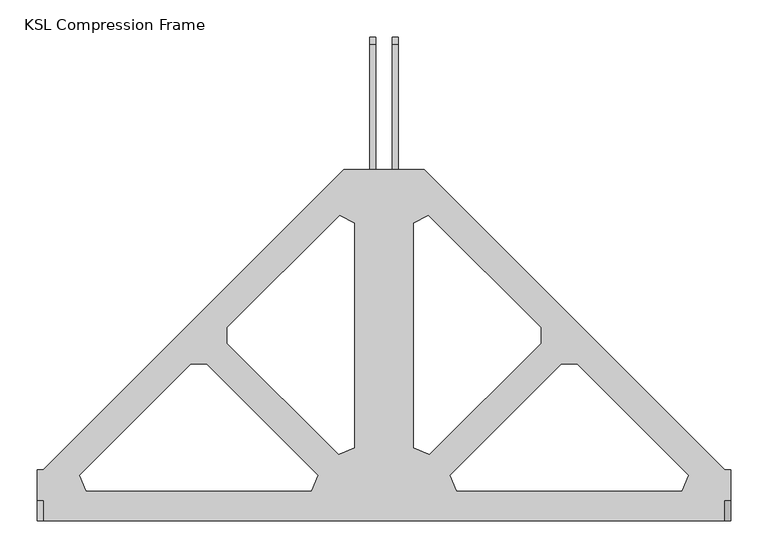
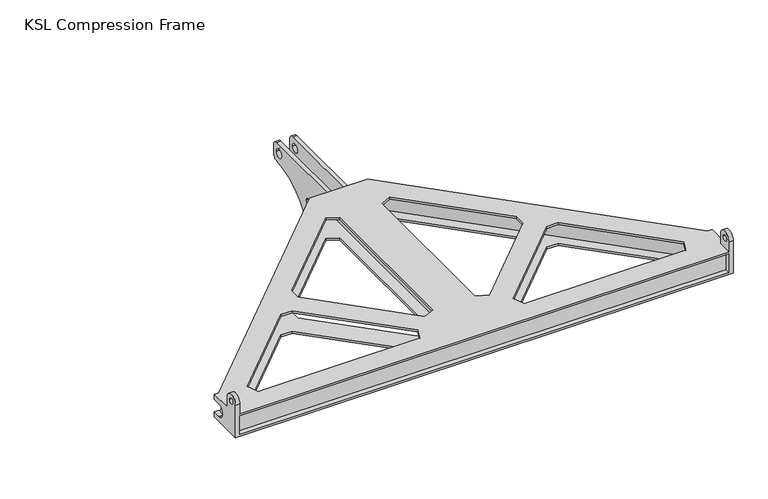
"""IFC4 building model written with IfcOpenShell, lengths in millimetres: proxy geometry, d&b SL-Series KSL Compression Frame : KSL Compression Frame."""

from ifc_helpers import new_model, si_unit, point, frame, frame_2d, origin, place, context, project, spatial, polyline, circle_curve, trimmed, segment, composite_curve, outline, extrude, source, transform, mapped, element, save
from ifc_brep_helpers import plane_surface, cylinder_surface, revolved_surface, advanced_brep


def ksl_compression_frame_dbb09a64(model_context):
    return source(origin(), model_context, "Body", "SolidModel", [
        extrude(outline(composite_curve([segment(polyline([(43.8454278, -50.0), (43.8454278, -13.0), (672.8454278, -13.0)]), True, "CONTINUOUS"), segment(trimmed(circle_curve(frame_2d((672.8454278, -23.0)), 10.0), [point((672.8454278, -13.0))], [point((682.8454278, -23.0))], False, "CARTESIAN"), True, "CONTINUOUS"), segment(polyline([(682.8454278, -23.0), (682.8454278, -40.1113824)]), True, "CONTINUOUS"), segment(trimmed(circle_curve(frame_2d((672.8454278, -40.1113824)), 10.0), [point((682.8454278, -40.1113824))], [point((673.2683315, -50.102436))], False, "CARTESIAN"), True, "CONTINUOUS"), segment(trimmed(circle_curve(frame_2d((678.1105783, -164.5)), 114.5), [point((673.2683315, -50.102436))], [point((584.8896316, -98.016129))], True, "CARTESIAN"), True, "CONTINUOUS"), segment(trimmed(circle_curve(frame_2d((570.8454278, -88.0)), 17.25), [point((584.8896316, -98.016129))], [point((554.5513399, -93.662614))], False, "CARTESIAN"), True, "CONTINUOUS"), segment(trimmed(circle_curve(frame_2d((493.1533272, -115.0)), 65.0), [point((554.5513399, -93.662614))], [point((493.1533272, -50.0))], True, "CARTESIAN"), True, "CONTINUOUS"), segment(polyline([(493.1533272, -50.0), (43.8454278, -50.0)]), True, "CONTINUOUS")], self_intersect=False), holes=[composite_curve([segment(trimmed(circle_curve(frame_2d((665.3454278, -31.0)), 8.25), [point((673.5954278, -31.0))], [point((657.0954278, -31.0))], True, "CARTESIAN"), True, "CONTINUOUS"), segment(trimmed(circle_curve(frame_2d((665.3454278, -31.0)), 8.25), [point((657.0954278, -31.0))], [point((673.5954278, -31.0))], True, "CARTESIAN"), True, "CONTINUOUS")], self_intersect=False), composite_curve([segment(trimmed(circle_curve(frame_2d((570.8454278, -69.25)), 5.25), [point((576.0954278, -69.25))], [point((565.5954278, -69.25))], True, "CARTESIAN"), True, "CONTINUOUS"), segment(trimmed(circle_curve(frame_2d((570.8454278, -69.25)), 5.25), [point((565.5954278, -69.25))], [point((576.0954278, -69.25))], True, "CARTESIAN"), True, "CONTINUOUS")], self_intersect=False), composite_curve([segment(trimmed(circle_curve(frame_2d((570.8454278, -88.0)), 5.25), [point((576.0954278, -88.0))], [point((565.5954278, -88.0))], True, "CARTESIAN"), True, "CONTINUOUS"), segment(trimmed(circle_curve(frame_2d((570.8454278, -88.0)), 5.25), [point((565.5954278, -88.0))], [point((576.0954278, -88.0))], True, "CARTESIAN"), True, "CONTINUOUS")], self_intersect=False)]), frame((11.0, 0.0, 0.0), z_axis=(1.0, 0.0, 0.0), x_axis=(0.0, 1.0, 0.0)), (0.0, 0.0, 1.0), 8.0),
        advanced_brep(
        [(-459.5, 98.9954278, -13.0), (-54.5, 503.9954278, -13.0), (54.5, 503.9954278, -13.0), (459.5, 98.9954278, -13.0), (459.5, 30.5954278, -13.0), (-459.5, 30.5954278, -13.0), (239.2012627, 241.5124193, -13.0), (89.4974747, 91.8086313, -13.0), (98.2842712, 70.5954278, -13.0), (401.3314575, 70.5954278, -13.0), (410.1182541, 91.8086313, -13.0), (260.4144661, 241.5124193, -13.0), (61.2132034, 120.0929025, -13.0), (210.9169914, 269.7966905, -13.0), (210.9169914, 291.0098939, -13.0), (59.8291426, 442.0977427, -13.0), (40.0, 431.9942899, -13.0), (40.0, 128.8796991, -13.0), (-239.2012627, 241.5124193, -13.0), (-260.4144661, 241.5124193, -13.0), (-410.1182541, 91.8086313, -13.0), (-401.3314575, 70.5954278, -13.0), (-98.2842712, 70.5954278, -13.0), (-89.4974747, 91.8086313, -13.0), (-61.2132034, 120.0929025, -13.0), (-40.0, 128.8796991, -13.0), (-40.0, 431.9942899, -13.0), (-59.8291426, 442.0977427, -13.0), (-210.9169914, 291.0098939, -13.0), (-210.9169914, 269.7966905, -13.0), (459.5, 98.9954278, -9.0), (54.5, 503.9954278, -9.0), (-54.5, 503.9954278, -9.0), (-459.5, 98.9954278, -9.0), (-467.5, 98.9954278, -9.0), (-467.5, 57.3954278, -9.0), (-459.5, 57.3954278, -9.0), (-459.5, 30.5954278, -9.0), (459.5, 30.5954278, -9.0), (459.5, 57.3954278, -9.0), (467.5, 57.3954278, -9.0), (467.5, 98.9954278, -9.0), (239.2012627, 241.5124193, -9.0), (260.4144661, 241.5124193, -9.0), (410.1182541, 91.8086313, -9.0), (401.3314575, 70.5954278, -9.0), (98.2842712, 70.5954278, -9.0), (89.4974747, 91.8086313, -9.0), (61.2132034, 120.0929025, -9.0), (40.0, 128.8796991, -9.0), (40.0, 431.9942899, -9.0), (59.8291426, 442.0977427, -9.0), (210.9169914, 291.0098939, -9.0), (210.9169914, 269.7966905, -9.0), (-239.2012627, 241.5124193, -9.0), (-89.4974747, 91.8086313, -9.0), (-98.2842712, 70.5954278, -9.0), (-401.3314575, 70.5954278, -9.0), (-410.1182541, 91.8086313, -9.0), (-260.4144661, 241.5124193, -9.0), (-61.2132034, 120.0929025, -9.0), (-210.9169914, 269.7966905, -9.0), (-210.9169914, 291.0098939, -9.0), (-59.8291426, 442.0977427, -9.0), (-40.0, 431.9942899, -9.0), (-40.0, 128.8796991, -9.0), (-459.5, 83.9954278, -19.0), (-459.5, 98.9954278, -19.0), (-459.5, 30.5954278, -50.0), (-459.5, 98.9954278, -50.0), (-459.5, 98.9954278, -44.0), (-459.5, 83.9954278, -44.0), (-459.5, 57.3954278, 11.0), (-459.5, 30.5954278, 11.0), (-459.5, 49.3550955, 11.0), (-459.5, 38.6357602, 11.0), (-467.5, 98.9954278, -54.0), (-459.5, 98.9954278, -54.0), (-54.5, 503.9954278, -54.0), (54.5, 503.9954278, -54.0), (459.5, 98.9954278, -54.0), (467.5, 98.9954278, -54.0), (467.5, 30.5954278, -54.0), (-467.5, 30.5954278, -54.0), (239.2012627, 241.5124193, -54.0), (89.4974747, 91.8086313, -54.0), (98.2842712, 70.5954278, -54.0), (401.3314575, 70.5954278, -54.0), (410.1182541, 91.8086313, -54.0), (260.4144661, 241.5124193, -54.0), (61.2132034, 120.0929025, -54.0), (210.9169914, 269.7966905, -54.0), (210.9169914, 291.0098939, -54.0), (59.8291426, 442.0977427, -54.0), (40.0, 431.9942899, -54.0), (40.0, 128.8796991, -54.0), (-239.2012627, 241.5124193, -54.0), (-260.4144661, 241.5124193, -54.0), (-410.1182541, 91.8086313, -54.0), (-401.3314575, 70.5954278, -54.0), (-98.2842712, 70.5954278, -54.0), (-89.4974747, 91.8086313, -54.0), (-61.2132034, 120.0929025, -54.0), (-40.0, 128.8796991, -54.0), (-40.0, 431.9942899, -54.0), (-59.8291426, 442.0977427, -54.0), (-210.9169914, 291.0098939, -54.0), (-210.9169914, 269.7966905, -54.0), (-467.5, 98.9954278, -44.0), (-467.5, 83.9954278, -44.0), (-467.5, 83.9954278, -19.0), (-467.5, 98.9954278, -19.0), (-467.5, 57.3954278, 11.0), (-467.5, 30.5954278, 11.0), (-467.5, 49.3550955, 11.0), (-467.5, 38.6357602, 11.0), (459.5, 83.9954278, -19.0), (459.5, 83.9954278, -44.0), (459.5, 98.9954278, -44.0), (459.5, 98.9954278, -50.0), (459.5, 30.5954278, -50.0), (459.5, 98.9954278, -19.0), (459.5, 57.3954278, 11.0), (459.5, 30.5954278, 11.0), (459.5, 49.3550955, 11.0), (459.5, 38.6357602, 11.0), (467.5, 98.9954278, -44.0), (467.5, 83.9954278, -44.0), (467.5, 83.9954278, -19.0), (467.5, 98.9954278, -19.0), (467.5, 30.5954278, 11.0), (467.5, 57.3954278, 11.0), (467.5, 38.6357602, 11.0), (467.5, 49.3550955, 11.0), (54.5, 503.9954278, -50.0), (-54.5, 503.9954278, -50.0), (239.2012627, 241.5124193, -50.0), (260.4144661, 241.5124193, -50.0), (410.1182541, 91.8086313, -50.0), (401.3314575, 70.5954278, -50.0), (98.2842712, 70.5954278, -50.0), (89.4974747, 91.8086313, -50.0), (61.2132034, 120.0929025, -50.0), (40.0, 128.8796991, -50.0), (40.0, 431.9942899, -50.0), (59.8291426, 442.0977427, -50.0), (210.9169914, 291.0098939, -50.0), (210.9169914, 269.7966905, -50.0), (-239.2012627, 241.5124193, -50.0), (-89.4974747, 91.8086313, -50.0), (-98.2842712, 70.5954278, -50.0), (-401.3314575, 70.5954278, -50.0), (-410.1182541, 91.8086313, -50.0), (-260.4144661, 241.5124193, -50.0), (-61.2132034, 120.0929025, -50.0), (-210.9169914, 269.7966905, -50.0), (-210.9169914, 291.0098939, -50.0), (-59.8291426, 442.0977427, -50.0), (-40.0, 431.9942899, -50.0), (-40.0, 128.8796991, -50.0)],
        [
            (0, 1),
            (1, 2),
            (2, 3),
            (3, 4),
            (4, 5),
            (5, 0),
            (6, 7),
            (7, 8),
            (8, 9),
            (9, 10),
            (10, 11),
            (11, 6),
            (12, 13),
            (13, 14),
            (14, 15),
            (15, 16),
            (16, 17),
            (17, 12),
            (18, 19),
            (19, 20),
            (20, 21),
            (21, 22),
            (22, 23),
            (23, 18),
            (24, 25),
            (25, 26),
            (26, 27),
            (27, 28),
            (28, 29),
            (29, 24),
            (30, 31),
            (31, 32),
            (32, 33),
            (33, 34),
            (34, 35),
            (35, 36),
            (36, 37),
            (37, 38),
            (38, 39),
            (39, 40),
            (40, 41),
            (41, 30),
            (42, 43),
            (43, 44),
            (44, 45),
            (45, 46),
            (46, 47),
            (47, 42),
            (48, 49),
            (49, 50),
            (50, 51),
            (51, 52),
            (52, 53),
            (53, 48),
            (54, 55),
            (55, 56),
            (56, 57),
            (57, 58),
            (58, 59),
            (59, 54),
            (60, 61),
            (61, 62),
            (62, 63),
            (63, 64),
            (64, 65),
            (65, 60),
            (66, 67),
            (67, 0),
            (5, 68),
            (68, 69),
            (69, 70),
            (70, 71),
            (71, 66, circle_curve(frame((-459.5, 83.9954278, -31.5), z_axis=(-1.0, 0.0, 0.0), x_axis=(0.0, -1.0, 0.0)), 12.5)),
            (72, 73, circle_curve(frame((-459.5, 43.9954278, 11.0), z_axis=(1.0, 0.0, 0.0), x_axis=(0.0, -1.0, 0.0)), 13.4)),
            (73, 37),
            (36, 72),
            (74, 75, circle_curve(frame((-459.5, 43.9954278, 11.0), z_axis=(-1.0, 0.0, 0.0), x_axis=(0.0, -1.0, 0.0)), 5.3596677)),
            (75, 74, circle_curve(frame((-459.5, 43.9954278, 11.0), z_axis=(-1.0, 0.0, 0.0), x_axis=(0.0, -1.0, 0.0)), 5.3596677)),
            (76, 77),
            (77, 78),
            (78, 79),
            (79, 80),
            (80, 81),
            (81, 82),
            (82, 83),
            (83, 76),
            (84, 85),
            (85, 86),
            (86, 87),
            (87, 88),
            (88, 89),
            (89, 84),
            (90, 91),
            (91, 92),
            (92, 93),
            (93, 94),
            (94, 95),
            (95, 90),
            (96, 97),
            (97, 98),
            (98, 99),
            (99, 100),
            (100, 101),
            (101, 96),
            (102, 103),
            (103, 104),
            (104, 105),
            (105, 106),
            (106, 107),
            (107, 102),
            (76, 108),
            (108, 70),
            (69, 77),
            (108, 109),
            (109, 71),
            (109, 110, circle_curve(frame((-467.5, 83.9954278, -31.5), z_axis=(-1.0, 0.0, 0.0), x_axis=(0.0, -1.0, 0.0)), 12.5)),
            (110, 66),
            (110, 111),
            (111, 67),
            (72, 112),
            (112, 113, circle_curve(frame((-467.5, 43.9954278, 11.0), z_axis=(1.0, 0.0, 0.0), x_axis=(0.0, -1.0, 0.0)), 13.4)),
            (113, 73),
            (35, 112),
            (74, 114),
            (114, 115, circle_curve(frame((-467.5, 43.9954278, 11.0), z_axis=(-1.0, 0.0, 0.0), x_axis=(0.0, -1.0, 0.0)), 5.3596677)),
            (115, 75),
            (115, 114, circle_curve(frame((-467.5, 43.9954278, 11.0), z_axis=(-1.0, 0.0, 0.0), x_axis=(0.0, -1.0, 0.0)), 5.3596677)),
            (116, 117, circle_curve(frame((459.5, 83.9954278, -31.5), z_axis=(1.0, 0.0, 0.0), x_axis=(0.0, -1.0, 0.0)), 12.5)),
            (117, 118),
            (118, 119),
            (119, 120),
            (120, 4),
            (3, 121),
            (121, 116),
            (122, 39),
            (38, 123),
            (123, 122, circle_curve(frame((459.5, 43.9954278, 11.0), z_axis=(-1.0, 0.0, 0.0), x_axis=(0.0, -1.0, 0.0)), 13.4)),
            (124, 125, circle_curve(frame((459.5, 43.9954278, 11.0), z_axis=(1.0, 0.0, 0.0), x_axis=(0.0, -1.0, 0.0)), 5.3596677)),
            (125, 124, circle_curve(frame((459.5, 43.9954278, 11.0), z_axis=(1.0, 0.0, 0.0), x_axis=(0.0, -1.0, 0.0)), 5.3596677)),
            (126, 81),
            (80, 119),
            (118, 126),
            (117, 127),
            (127, 126),
            (116, 128),
            (128, 127, circle_curve(frame((467.5, 83.9954278, -31.5), z_axis=(1.0, 0.0, 0.0), x_axis=(0.0, -1.0, 0.0)), 12.5)),
            (121, 129),
            (129, 128),
            (123, 130),
            (130, 131, circle_curve(frame((467.5, 43.9954278, 11.0), z_axis=(-1.0, 0.0, 0.0), x_axis=(0.0, -1.0, 0.0)), 13.4)),
            (131, 122),
            (131, 40),
            (125, 132),
            (132, 133, circle_curve(frame((467.5, 43.9954278, 11.0), z_axis=(1.0, 0.0, 0.0), x_axis=(0.0, -1.0, 0.0)), 5.3596677)),
            (133, 124),
            (133, 132, circle_curve(frame((467.5, 43.9954278, 11.0), z_axis=(1.0, 0.0, 0.0), x_axis=(0.0, -1.0, 0.0)), 5.3596677)),
            (119, 134),
            (134, 135),
            (135, 69),
            (68, 120),
            (136, 137),
            (137, 138),
            (138, 139),
            (139, 140),
            (140, 141),
            (141, 136),
            (142, 143),
            (143, 144),
            (144, 145),
            (145, 146),
            (146, 147),
            (147, 142),
            (148, 149),
            (149, 150),
            (150, 151),
            (151, 152),
            (152, 153),
            (153, 148),
            (154, 155),
            (155, 156),
            (156, 157),
            (157, 158),
            (158, 159),
            (159, 154),
            (2, 31),
            (30, 3),
            (1, 32),
            (0, 33),
            (111, 34),
            (83, 113),
            (82, 130),
            (129, 41),
            (11, 43),
            (42, 6),
            (10, 44),
            (9, 45),
            (8, 46),
            (7, 47),
            (17, 49),
            (48, 12),
            (16, 50),
            (15, 51),
            (14, 52),
            (13, 53),
            (23, 55),
            (54, 18),
            (22, 56),
            (21, 57),
            (20, 58),
            (19, 59),
            (29, 61),
            (60, 24),
            (28, 62),
            (27, 63),
            (26, 64),
            (25, 65),
            (79, 134),
            (78, 135),
            (89, 137),
            (136, 84),
            (88, 138),
            (87, 139),
            (86, 140),
            (85, 141),
            (95, 143),
            (142, 90),
            (94, 144),
            (93, 145),
            (92, 146),
            (91, 147),
            (101, 149),
            (148, 96),
            (100, 150),
            (99, 151),
            (98, 152),
            (97, 153),
            (107, 155),
            (154, 102),
            (106, 156),
            (105, 157),
            (104, 158),
            (103, 159),
        ],
        [
            plane_surface(frame((52.203691, 506.2917369, -13.0), z_axis=(0.0, 0.0, -1.0), x_axis=(0.7071067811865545, -0.7071067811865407, 0.0))),
            plane_surface(frame((52.203691, 506.2917369, -9.0), z_axis=(0.0, 0.0, 1.0), x_axis=(-0.7071067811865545, 0.7071067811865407, 0.0))),
            plane_surface(frame((-459.5, 96.9954278, -19.0), z_axis=(1.0, 0.0, 0.0), x_axis=(0.0, 1.0, 0.0))),
            plane_surface(frame((-459.5, 32.6068307, -54.0), z_axis=(0.0, 0.0, -1.0), x_axis=(-1.0, 0.0, 0.0))),
            plane_surface(frame((-459.5, 98.9954278, -54.0), z_axis=(0.0, 1.0, 0.0), x_axis=(-1.0, 0.0, 0.0))),
            plane_surface(frame((-459.5, 98.9954278, -44.0), z_axis=(0.0, 0.0, 1.0), x_axis=(-1.0, 0.0, 0.0))),
            revolved_surface(polyline([(-467.5, 71.4954278, -31.5), (-459.5, 71.4954278, -31.5)]), (-467.5, 83.9954278, -31.5), (-1.0, 0.0, 0.0)),
            plane_surface(frame((-459.5, 83.9954278, -19.0), z_axis=(0.0, 0.0, -1.0), x_axis=(-1.0, 0.0, 0.0))),
            cylinder_surface(frame((-606.25, 43.9954278, 11.0), z_axis=(1.0, 0.0, 0.0), x_axis=(0.0, -1.0, 0.0)), 13.4),
            plane_surface(frame((-459.5, 57.3954278, -9.0), z_axis=(0.0, 1.0, 0.0), x_axis=(-1.0, 0.0, 0.0))),
            revolved_surface(polyline([(-467.5, 38.6357601, 11.0), (-459.5, 38.6357601, 11.0)]), (-606.25, 43.9954278, 11.0), (-1.0, 0.0, 0.0)),
            plane_surface(frame((459.5, 71.4954278, -31.5), z_axis=(-1.0, 0.0, 0.0), x_axis=(0.0, 0.0, -1.0))),
            plane_surface(frame((459.5, 98.9954278, -44.0), z_axis=(0.0, 1.0, 0.0), x_axis=(1.0, 0.0, 0.0))),
            plane_surface(frame((459.5, 83.9954278, -44.0), z_axis=(0.0, 0.0, 1.0), x_axis=(1.0, 0.0, 0.0))),
            revolved_surface(polyline([(467.5, 71.4954278, -31.5), (459.5, 71.4954278, -31.5)]), (467.5, 83.9954278, -31.5), (1.0, 0.0, 0.0)),
            plane_surface(frame((459.5, 98.9954278, -19.0), z_axis=(0.0, 0.0, -1.0), x_axis=(1.0, 0.0, 0.0))),
            cylinder_surface(frame((606.25, 43.9954278, 11.0), z_axis=(-1.0, 0.0, 0.0), x_axis=(0.0, -1.0, 0.0)), 13.4),
            plane_surface(frame((459.5, 57.3954278, 11.0), z_axis=(0.0, 1.0, 0.0), x_axis=(1.0, 0.0, 0.0))),
            revolved_surface(polyline([(467.5, 38.6357601, 11.0), (459.5, 38.6357601, 11.0)]), (606.25, 43.9954278, 11.0), (1.0, 0.0, 0.0)),
            plane_surface(frame((52.203691, 506.2917369, -50.0), z_axis=(0.0, 0.0, 1.0), x_axis=(-0.7071067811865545, 0.7071067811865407, 0.0))),
            plane_surface(frame((459.5, 98.9954278, -9.0), z_axis=(0.7071067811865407, 0.7071067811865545, 0.0), x_axis=(0.0, 0.0, -1.0))),
            plane_surface(frame((54.5, 503.9954278, -9.0), z_axis=(0.0, 1.0, 0.0), x_axis=(0.0, 0.0, -1.0))),
            plane_surface(frame((-54.5, 503.9954278, -9.0), z_axis=(-0.7071067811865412, 0.7071067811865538, 0.0), x_axis=(0.0, 0.0, -1.0))),
            plane_surface(frame((-459.5, 98.9954278, -9.0), z_axis=(0.0, 1.0, 0.0), x_axis=(0.0, 0.0, -1.0))),
            plane_surface(frame((-467.5, 98.9954278, -9.0), z_axis=(-1.0, 0.0, 0.0), x_axis=(0.0, 0.0, -1.0))),
            plane_surface(frame((-467.5, 30.5954278, -9.0), z_axis=(0.0, -1.0, 0.0), x_axis=(0.0, 0.0, -1.0))),
            plane_surface(frame((467.5, 30.5954278, -9.0), z_axis=(1.0, 0.0, 0.0), x_axis=(0.0, 0.0, -1.0))),
            plane_surface(frame((467.5, 98.9954278, -9.0), z_axis=(0.0, 1.0, 0.0), x_axis=(0.0, 0.0, -1.0))),
            plane_surface(frame((239.2012627, 241.5124193, -9.0), z_axis=(0.0, -1.0, 0.0), x_axis=(0.0, 0.0, -1.0))),
            plane_surface(frame((260.4144661, 241.5124193, -9.0), z_axis=(-0.7071067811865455, -0.7071067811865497, 0.0), x_axis=(0.0, 0.0, -1.0))),
            plane_surface(frame((410.1182541, 91.8086313, -9.0), z_axis=(-0.9238795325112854, 0.3826834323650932, 0.0), x_axis=(0.0, 0.0, -1.0))),
            plane_surface(frame((401.3314575, 70.5954278, -9.0), z_axis=(0.0, 1.0, 0.0), x_axis=(0.0, 0.0, -1.0))),
            plane_surface(frame((98.2842712, 70.5954278, -9.0), z_axis=(0.9238795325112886, 0.3826834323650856, 0.0), x_axis=(0.0, 0.0, -1.0))),
            plane_surface(frame((89.4974747, 91.8086313, -9.0), z_axis=(0.7071067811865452, -0.7071067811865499, 0.0), x_axis=(0.0, 0.0, -1.0))),
            plane_surface(frame((61.2132034, 120.0929025, -9.0), z_axis=(0.3826834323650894, 0.923879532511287, 0.0), x_axis=(0.0, 0.0, -1.0))),
            plane_surface(frame((40.0, 128.8796991, -9.0), z_axis=(1.0, 0.0, 0.0), x_axis=(0.0, 0.0, -1.0))),
            plane_surface(frame((40.0, 431.9942899, -9.0), z_axis=(0.45399049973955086, -0.8910065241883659, 0.0), x_axis=(0.0, 0.0, -1.0))),
            plane_surface(frame((59.8291426, 442.0977427, -9.0), z_axis=(-0.7071067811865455, -0.7071067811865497, 0.0), x_axis=(0.0, 0.0, -1.0))),
            plane_surface(frame((210.9169914, 291.0098939, -9.0), z_axis=(-1.0, 0.0, 0.0), x_axis=(0.0, 0.0, -1.0))),
            plane_surface(frame((210.9169914, 269.7966905, -9.0), z_axis=(-0.707106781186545, 0.7071067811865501, 0.0), x_axis=(0.0, 0.0, -1.0))),
            plane_surface(frame((-239.2012627, 241.5124193, -9.0), z_axis=(-0.7071067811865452, -0.7071067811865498, 0.0), x_axis=(0.0, 0.0, -1.0))),
            plane_surface(frame((-89.4974747, 91.8086313, -9.0), z_axis=(-0.9238795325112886, 0.3826834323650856, 0.0), x_axis=(0.0, 0.0, -1.0))),
            plane_surface(frame((-98.2842712, 70.5954278, -9.0), z_axis=(0.0, 1.0, 0.0), x_axis=(0.0, 0.0, -1.0))),
            plane_surface(frame((-401.3314575, 70.5954278, -9.0), z_axis=(0.9238795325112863, 0.38268343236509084, 0.0), x_axis=(0.0, 0.0, -1.0))),
            plane_surface(frame((-410.1182541, 91.8086313, -9.0), z_axis=(0.7071067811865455, -0.7071067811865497, 0.0), x_axis=(0.0, 0.0, -1.0))),
            plane_surface(frame((-260.4144661, 241.5124193, -9.0), z_axis=(0.0, -1.0, 0.0), x_axis=(0.0, 0.0, -1.0))),
            plane_surface(frame((-61.2132034, 120.0929025, -9.0), z_axis=(0.7071067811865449, 0.7071067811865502, 0.0), x_axis=(0.0, 0.0, -1.0))),
            plane_surface(frame((-210.9169914, 269.7966905, -9.0), z_axis=(1.0, 0.0, 0.0), x_axis=(0.0, 0.0, -1.0))),
            plane_surface(frame((-210.9169914, 291.0098939, -9.0), z_axis=(0.7071067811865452, -0.7071067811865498, 0.0), x_axis=(0.0, 0.0, -1.0))),
            plane_surface(frame((-59.8291426, 442.0977427, -9.0), z_axis=(-0.45399049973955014, -0.8910065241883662, 0.0), x_axis=(0.0, 0.0, -1.0))),
            plane_surface(frame((-40.0, 431.9942899, -9.0), z_axis=(-1.0, 0.0, 0.0), x_axis=(0.0, 0.0, -1.0))),
            plane_surface(frame((-40.0, 128.8796991, -9.0), z_axis=(-0.38268343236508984, 0.9238795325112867, 0.0), x_axis=(0.0, 0.0, -1.0))),
            plane_surface(frame((459.5, 98.9954278, -50.0), z_axis=(0.7071067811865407, 0.7071067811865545, 0.0), x_axis=(0.0, 0.0, -1.0))),
            plane_surface(frame((54.5, 503.9954278, -50.0), z_axis=(0.0, 1.0, 0.0), x_axis=(0.0, 0.0, -1.0))),
            plane_surface(frame((-54.5, 503.9954278, -50.0), z_axis=(-0.7071067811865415, 0.7071067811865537, 0.0), x_axis=(0.0, 0.0, -1.0))),
            plane_surface(frame((239.2012627, 241.5124193, -50.0), z_axis=(0.0, -1.0, 0.0), x_axis=(0.0, 0.0, -1.0))),
            plane_surface(frame((260.4144661, 241.5124193, -50.0), z_axis=(-0.7071067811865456, -0.7071067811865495, 0.0), x_axis=(0.0, 0.0, -1.0))),
            plane_surface(frame((410.1182541, 91.8086313, -50.0), z_axis=(-0.9238795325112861, 0.3826834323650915, 0.0), x_axis=(0.0, 0.0, -1.0))),
            plane_surface(frame((401.3314575, 70.5954278, -50.0), z_axis=(0.0, 1.0, 0.0), x_axis=(0.0, 0.0, -1.0))),
            plane_surface(frame((98.2842712, 70.5954278, -50.0), z_axis=(0.923879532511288, 0.3826834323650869, 0.0), x_axis=(0.0, 0.0, -1.0))),
            plane_surface(frame((89.4974747, 91.8086313, -50.0), z_axis=(0.7071067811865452, -0.7071067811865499, 0.0), x_axis=(0.0, 0.0, -1.0))),
            plane_surface(frame((61.2132034, 120.0929025, -50.0), z_axis=(0.38268343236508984, 0.9238795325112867, 0.0), x_axis=(0.0, 0.0, -1.0))),
            plane_surface(frame((40.0, 128.8796991, -50.0), z_axis=(1.0, 0.0, 0.0), x_axis=(0.0, 0.0, -1.0))),
            plane_surface(frame((40.0, 431.9942899, -50.0), z_axis=(0.4539904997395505, -0.891006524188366, 0.0), x_axis=(0.0, 0.0, -1.0))),
            plane_surface(frame((59.8291426, 442.0977427, -50.0), z_axis=(-0.7071067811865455, -0.7071067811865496, 0.0), x_axis=(0.0, 0.0, -1.0))),
            plane_surface(frame((210.9169914, 291.0098939, -50.0), z_axis=(-1.0, 0.0, 0.0), x_axis=(0.0, 0.0, -1.0))),
            plane_surface(frame((210.9169914, 269.7966905, -50.0), z_axis=(-0.7071067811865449, 0.7071067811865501, 0.0), x_axis=(0.0, 0.0, -1.0))),
            plane_surface(frame((-239.2012627, 241.5124193, -50.0), z_axis=(-0.7071067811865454, -0.7071067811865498, 0.0), x_axis=(0.0, 0.0, -1.0))),
            plane_surface(frame((-89.4974747, 91.8086313, -50.0), z_axis=(-0.923879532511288, 0.3826834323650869, 0.0), x_axis=(0.0, 0.0, -1.0))),
            plane_surface(frame((-98.2842712, 70.5954278, -50.0), z_axis=(0.0, 1.0, 0.0), x_axis=(0.0, 0.0, -1.0))),
            plane_surface(frame((-401.3314575, 70.5954278, -50.0), z_axis=(0.9238795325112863, 0.3826834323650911, 0.0), x_axis=(0.0, 0.0, -1.0))),
            plane_surface(frame((-410.1182541, 91.8086313, -50.0), z_axis=(0.7071067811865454, -0.7071067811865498, 0.0), x_axis=(0.0, 0.0, -1.0))),
            plane_surface(frame((-260.4144661, 241.5124193, -50.0), z_axis=(0.0, -1.0, 0.0), x_axis=(0.0, 0.0, -1.0))),
            plane_surface(frame((-61.2132034, 120.0929025, -50.0), z_axis=(0.7071067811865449, 0.7071067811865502, 0.0), x_axis=(0.0, 0.0, -1.0))),
            plane_surface(frame((-210.9169914, 269.7966905, -50.0), z_axis=(1.0, 0.0, 0.0), x_axis=(0.0, 0.0, -1.0))),
            plane_surface(frame((-210.9169914, 291.0098939, -50.0), z_axis=(0.7071067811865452, -0.7071067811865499, 0.0), x_axis=(0.0, 0.0, -1.0))),
            plane_surface(frame((-59.8291426, 442.0977427, -50.0), z_axis=(-0.45399049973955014, -0.8910065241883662, 0.0), x_axis=(0.0, 0.0, -1.0))),
            plane_surface(frame((-40.0, 431.9942899, -50.0), z_axis=(-1.0, 0.0, 0.0), x_axis=(0.0, 0.0, -1.0))),
            plane_surface(frame((-40.0, 128.8796991, -50.0), z_axis=(-0.38268343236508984, 0.9238795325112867, 0.0), x_axis=(0.0, 0.0, -1.0))),
        ],
        [
            (0, [[1, 2, 3, 4, 5, 6], [7, 8, 9, 10, 11, 12], [13, 14, 15, 16, 17, 18], [19, 20, 21, 22, 23, 24], [25, 26, 27, 28, 29, 30]]),
            (1, [[31, 32, 33, 34, 35, 36, 37, 38, 39, 40, 41, 42], [43, 44, 45, 46, 47, 48], [49, 50, 51, 52, 53, 54], [55, 56, 57, 58, 59, 60], [61, 62, 63, 64, 65, 66]]),
            (2, [[67, 68, -6, 69, 70, 71, 72, 73]]),
            (2, [[74, 75, -37, 76], [77, 78]]),
            (3, [[79, 80, 81, 82, 83, 84, 85, 86], [87, 88, 89, 90, 91, 92], [93, 94, 95, 96, 97, 98], [99, 100, 101, 102, 103, 104], [105, 106, 107, 108, 109, 110]]),
            (4, [[-79, 111, 112, -71, 113]]),
            (5, [[-72, -112, 114, 115]]),
            (6, [[-73, -115, 116, 117]]),
            (7, [[-67, -117, 118, 119]]),
            (8, [[-74, 120, 121, 122]]),
            (9, [[-76, -36, 123, -120]]),
            (10, [[-77, 124, 125, 126]]),
            (10, [[-78, -126, 127, -124]]),
            (11, [[128, 129, 130, 131, 132, -4, 133, 134]]),
            (11, [[135, -39, 136, 137], [138, 139]]),
            (12, [[140, -83, 141, -130, 142]]),
            (13, [[-129, 143, 144, -142]]),
            (14, [[-128, 145, 146, -143]]),
            (15, [[-134, 147, 148, -145]]),
            (16, [[-137, 149, 150, 151]]),
            (17, [[-135, -151, 152, -40]]),
            (18, [[-139, 153, 154, 155]]),
            (18, [[-138, -155, 156, -153]]),
            (19, [[157, 158, 159, -70, 160, -131], [161, 162, 163, 164, 165, 166], [167, 168, 169, 170, 171, 172], [173, 174, 175, 176, 177, 178], [179, 180, 181, 182, 183, 184]]),
            (20, [[-3, 185, -31, 186]]),
            (21, [[-2, 187, -32, -185]]),
            (22, [[-1, 188, -33, -187]]),
            (23, [[-34, -188, -68, -119, 189]]),
            (24, [[-116, -114, -111, -86, 190, -121, -123, -35, -189, -118], [-127, -125]]),
            (25, [[-75, -122, -190, -85, 191, -149, -136, -38], [-132, -160, -69, -5]]),
            (26, [[-148, 192, -41, -152, -150, -191, -84, -140, -144, -146], [-154, -156]]),
            (27, [[-42, -192, -147, -133, -186]]),
            (28, [[-12, 193, -43, 194]]),
            (29, [[-11, 195, -44, -193]]),
            (30, [[-10, 196, -45, -195]]),
            (31, [[-9, 197, -46, -196]]),
            (32, [[-8, 198, -47, -197]]),
            (33, [[-7, -194, -48, -198]]),
            (34, [[-18, 199, -49, 200]]),
            (35, [[-17, 201, -50, -199]]),
            (36, [[-16, 202, -51, -201]]),
            (37, [[-15, 203, -52, -202]]),
            (38, [[-14, 204, -53, -203]]),
            (39, [[-13, -200, -54, -204]]),
            (40, [[-24, 205, -55, 206]]),
            (41, [[-23, 207, -56, -205]]),
            (42, [[-22, 208, -57, -207]]),
            (43, [[-21, 209, -58, -208]]),
            (44, [[-20, 210, -59, -209]]),
            (45, [[-19, -206, -60, -210]]),
            (46, [[-30, 211, -61, 212]]),
            (47, [[-29, 213, -62, -211]]),
            (48, [[-28, 214, -63, -213]]),
            (49, [[-27, 215, -64, -214]]),
            (50, [[-26, 216, -65, -215]]),
            (51, [[-25, -212, -66, -216]]),
            (52, [[-82, 217, -157, -141]]),
            (53, [[-81, 218, -158, -217]]),
            (54, [[-80, -113, -159, -218]]),
            (55, [[-92, 219, -161, 220]]),
            (56, [[-91, 221, -162, -219]]),
            (57, [[-90, 222, -163, -221]]),
            (58, [[-89, 223, -164, -222]]),
            (59, [[-88, 224, -165, -223]]),
            (60, [[-87, -220, -166, -224]]),
            (61, [[-98, 225, -167, 226]]),
            (62, [[-97, 227, -168, -225]]),
            (63, [[-96, 228, -169, -227]]),
            (64, [[-95, 229, -170, -228]]),
            (65, [[-94, 230, -171, -229]]),
            (66, [[-93, -226, -172, -230]]),
            (67, [[-104, 231, -173, 232]]),
            (68, [[-103, 233, -174, -231]]),
            (69, [[-102, 234, -175, -233]]),
            (70, [[-101, 235, -176, -234]]),
            (71, [[-100, 236, -177, -235]]),
            (72, [[-99, -232, -178, -236]]),
            (73, [[-110, 237, -179, 238]]),
            (74, [[-109, 239, -180, -237]]),
            (75, [[-108, 240, -181, -239]]),
            (76, [[-107, 241, -182, -240]]),
            (77, [[-106, 242, -183, -241]]),
            (78, [[-105, -238, -184, -242]]),
        ],
    ),
        extrude(outline(composite_curve([segment(polyline([(43.8454278, -50.0), (43.8454278, -13.0), (672.8454278, -13.0)]), True, "CONTINUOUS"), segment(trimmed(circle_curve(frame_2d((672.8454278, -23.0)), 10.0), [point((672.8454278, -13.0))], [point((682.8454278, -23.0))], False, "CARTESIAN"), True, "CONTINUOUS"), segment(polyline([(682.8454278, -23.0), (682.8454278, -40.1113824)]), True, "CONTINUOUS"), segment(trimmed(circle_curve(frame_2d((672.8454278, -40.1113824)), 10.0), [point((682.8454278, -40.1113824))], [point((673.2683315, -50.102436))], False, "CARTESIAN"), True, "CONTINUOUS"), segment(trimmed(circle_curve(frame_2d((678.1105783, -164.5)), 114.5), [point((673.2683315, -50.102436))], [point((584.8896316, -98.016129))], True, "CARTESIAN"), True, "CONTINUOUS"), segment(trimmed(circle_curve(frame_2d((570.8454278, -88.0)), 17.25), [point((584.8896316, -98.016129))], [point((554.5513399, -93.662614))], False, "CARTESIAN"), True, "CONTINUOUS"), segment(trimmed(circle_curve(frame_2d((493.1533272, -115.0)), 65.0), [point((554.5513399, -93.662614))], [point((493.1533272, -50.0))], True, "CARTESIAN"), True, "CONTINUOUS"), segment(polyline([(493.1533272, -50.0), (43.8454278, -50.0)]), True, "CONTINUOUS")], self_intersect=False), holes=[composite_curve([segment(trimmed(circle_curve(frame_2d((665.3454278, -31.0)), 8.25), [point((673.5954278, -31.0))], [point((657.0954278, -31.0))], True, "CARTESIAN"), True, "CONTINUOUS"), segment(trimmed(circle_curve(frame_2d((665.3454278, -31.0)), 8.25), [point((657.0954278, -31.0))], [point((673.5954278, -31.0))], True, "CARTESIAN"), True, "CONTINUOUS")], self_intersect=False), composite_curve([segment(trimmed(circle_curve(frame_2d((570.8454278, -69.25)), 5.25), [point((576.0954278, -69.25))], [point((565.5954278, -69.25))], True, "CARTESIAN"), True, "CONTINUOUS"), segment(trimmed(circle_curve(frame_2d((570.8454278, -69.25)), 5.25), [point((565.5954278, -69.25))], [point((576.0954278, -69.25))], True, "CARTESIAN"), True, "CONTINUOUS")], self_intersect=False), composite_curve([segment(trimmed(circle_curve(frame_2d((570.8454278, -88.0)), 5.25), [point((576.0954278, -88.0))], [point((565.5954278, -88.0))], True, "CARTESIAN"), True, "CONTINUOUS"), segment(trimmed(circle_curve(frame_2d((570.8454278, -88.0)), 5.25), [point((565.5954278, -88.0))], [point((576.0954278, -88.0))], True, "CARTESIAN"), True, "CONTINUOUS")], self_intersect=False)]), frame((-19.0, 0.0, 0.0), z_axis=(1.0, 0.0, 0.0), x_axis=(0.0, 1.0, 0.0)), (0.0, 0.0, 1.0), 8.0),
        extrude(outline(polyline([(459.5, 43.8454278), (459.5, 39.8454278), (-459.5, 39.8454278), (-459.5, 43.8454278), (459.5, 43.8454278)])), frame((0.0, 0.0, -50.0), z_axis=(0.0, 0.0, 1.0), x_axis=(1.0, 0.0, 0.0)), (0.0, 0.0, 1.0), 37.0),
        extrude(outline(polyline([(-455.0, 78.0395837), (-57.8284271, 475.2111566), (-55.0, 472.3827295), (-452.1715729, 75.2111566), (-455.0, 78.0395837)])), frame((0.0, 0.0, -50.0), z_axis=(0.0, 0.0, 1.0), x_axis=(1.0, 0.0, 0.0)), (0.0, 0.0, 1.0), 37.0),
        extrude(outline(polyline([(57.8284271, 475.2111566), (455.0, 78.0395837), (452.1715729, 75.2111566), (55.0, 472.3827295), (57.8284271, 475.2111566)])), frame((0.0, 0.0, -50.0), z_axis=(0.0, 0.0, 1.0), x_axis=(1.0, 0.0, 0.0)), (0.0, 0.0, 1.0), 37.0),
    ])


if __name__ == "__main__":
    model = new_model("IFC4")
    model_context = context("Model", 3, world=origin())
    ifc_project = project(units=[si_unit("LENGTHUNIT", "METRE", prefix="MILLI")], contexts=[model_context])
    site = spatial("IfcSite", under=ifc_project)
    building = spatial("IfcBuilding", under=site)
    placement = place(None, origin())
    ksl_compression_frame_shape = ksl_compression_frame_dbb09a64(model_context)
    element("IfcBuildingElementProxy", 1, Name="d&b SL-Series KSL Compression Frame : KSL Compression Frame", ObjectType="d&b SL-Series KSL Compression Frame : KSL Compression Frame", at=placement, inside=building, context=model_context, shape_type="MappedRepresentation", body=[
        mapped(ksl_compression_frame_shape, transform((0.0, 0.0, 0.0), x_axis=(1.0, 0.0, 0.0), y_axis=(0.0, 1.0, 0.0), z_axis=(0.0, 0.0, 1.0))),
    ])
    save(model, "model.ifc")
